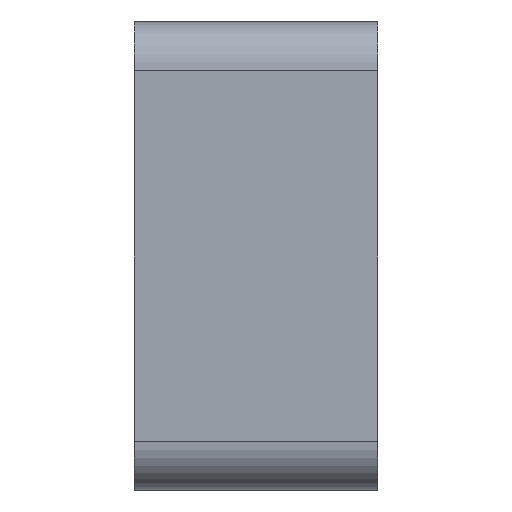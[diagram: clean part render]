
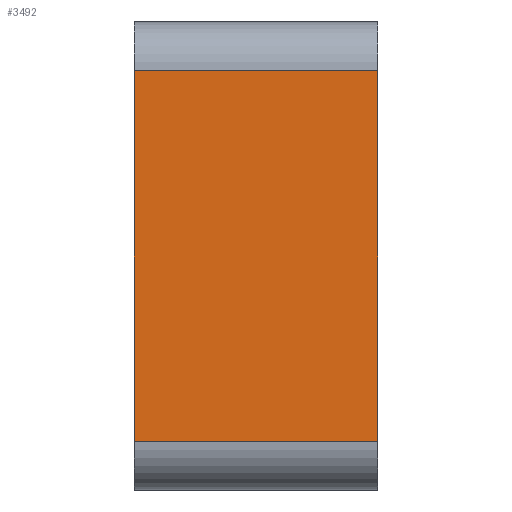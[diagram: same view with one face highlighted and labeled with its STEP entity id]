
A CAD part, left-side view. The second image highlights one B-rep face of the part: STEP entity #3492.
In plain terms, the highlighted planar face has unit normal (-1, 0, 0).
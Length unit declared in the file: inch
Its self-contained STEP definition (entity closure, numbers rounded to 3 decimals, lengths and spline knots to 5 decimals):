
#50 = VERTEX_POINT ( 'NONE', #743 ) ;
#135 = EDGE_CURVE ( 'NONE', #565, #2043, #1995, .T. ) ;
#295 = VECTOR ( 'NONE', #879, 39.37008 ) ;
#524 = ORIENTED_EDGE ( 'NONE', *, *, #3405, .T. ) ;
#565 = VERTEX_POINT ( 'NONE', #1911 ) ;
#653 = CARTESIAN_POINT ( 'NONE',  ( -0.65, 0.125, -0.095 ) ) ;
#735 = LINE ( 'NONE', #4038, #295 ) ;
#743 = CARTESIAN_POINT ( 'NONE',  ( -0.65, 0., -0.095 ) ) ;
#808 = EDGE_CURVE ( 'NONE', #565, #50, #1944, .T. ) ;
#879 = DIRECTION ( 'NONE',  ( 0., 0., 1. ) ) ;
#964 = ORIENTED_EDGE ( 'NONE', *, *, #808, .T. ) ;
#1068 = DIRECTION ( 'NONE',  ( 0., 0., 1. ) ) ;
#1122 = PLANE ( 'NONE',  #3413 ) ;
#1410 = LINE ( 'NONE', #2971, #3334 ) ;
#1472 = CARTESIAN_POINT ( 'NONE',  ( -0.65, 0.125, 0.095 ) ) ;
#1516 = VECTOR ( 'NONE', #1068, 39.37008 ) ;
#1632 = DIRECTION ( 'NONE',  ( 0., -1., 0. ) ) ;
#1911 = CARTESIAN_POINT ( 'NONE',  ( -0.65, 0.125, -0.095 ) ) ;
#1944 = LINE ( 'NONE', #653, #2537 ) ;
#1995 = LINE ( 'NONE', #2643, #1516 ) ;
#2043 = VERTEX_POINT ( 'NONE', #1472 ) ;
#2081 = CARTESIAN_POINT ( 'NONE',  ( -0.65, 0.125, 0.12 ) ) ;
#2537 = VECTOR ( 'NONE', #1632, 39.37008 ) ;
#2643 = CARTESIAN_POINT ( 'NONE',  ( -0.65, 0.125, 0.12 ) ) ;
#2971 = CARTESIAN_POINT ( 'NONE',  ( -0.65, 0.125, 0.095 ) ) ;
#3031 = DIRECTION ( 'NONE',  ( 1., 0., 0. ) ) ;
#3049 = VERTEX_POINT ( 'NONE', #3728 ) ;
#3204 = EDGE_CURVE ( 'NONE', #3049, #2043, #1410, .T. ) ;
#3241 = ORIENTED_EDGE ( 'NONE', *, *, #135, .F. ) ;
#3297 = DIRECTION ( 'NONE',  ( 0., 1., 0. ) ) ;
#3334 = VECTOR ( 'NONE', #3297, 39.37008 ) ;
#3368 = DIRECTION ( 'NONE',  ( 0., 0., -1. ) ) ;
#3372 = ORIENTED_EDGE ( 'NONE', *, *, #3204, .T. ) ;
#3405 = EDGE_CURVE ( 'NONE', #50, #3049, #735, .T. ) ;
#3413 = AXIS2_PLACEMENT_3D ( 'NONE', #2081, #3031, #3368 ) ;
#3492 = ADVANCED_FACE ( 'NONE', ( #3679 ), #1122, .F. ) ;
#3679 = FACE_OUTER_BOUND ( 'NONE', #3832, .T. ) ;
#3728 = CARTESIAN_POINT ( 'NONE',  ( -0.65, 0., 0.095 ) ) ;
#3832 = EDGE_LOOP ( 'NONE', ( #3241, #964, #524, #3372 ) ) ;
#4038 = CARTESIAN_POINT ( 'NONE',  ( -0.65, 0., 0.12 ) ) ;
